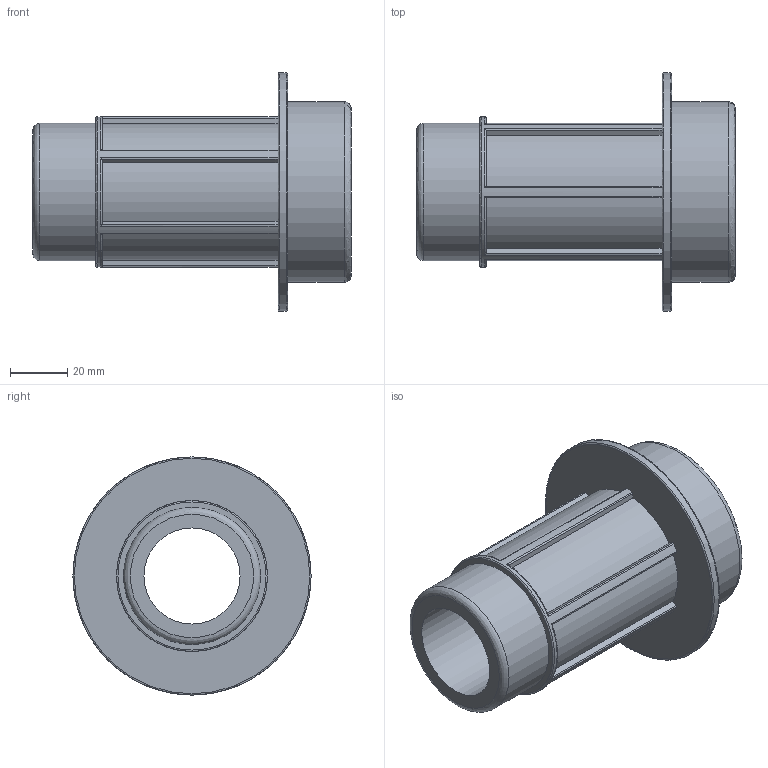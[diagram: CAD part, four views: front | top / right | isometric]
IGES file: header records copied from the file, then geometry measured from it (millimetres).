
Global section: file name: 078901063015.ipt; native system: Autodesk Inventor 2015; preprocessor: unknown; author: KIM; date: 20180409.130902; units: millimetre
Bounding box: 111 x 83 x 83 mm (x, y, z)
Volume: 146702.8 mm3; surface area: 40606.8 mm2
Topology: 1 solids, 1 shells, 57 faces, 163 edges, 111 vertices
Faces by surface type: plane 23, cylinder 22, revolution 12
Full cylindrical faces by diameter (mm): 47.803 x1, 52.583 x1, 63 x1, 83 x1
